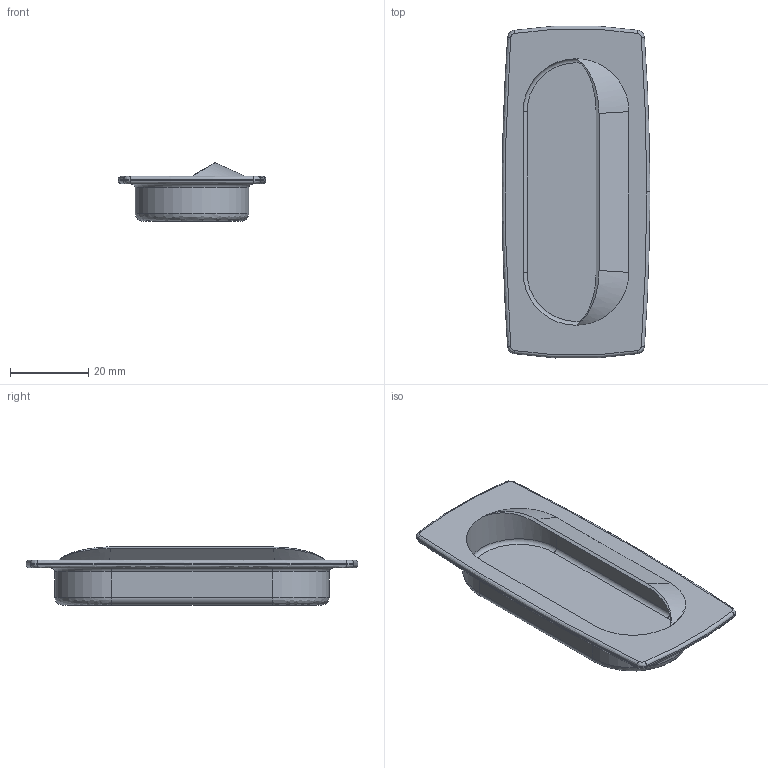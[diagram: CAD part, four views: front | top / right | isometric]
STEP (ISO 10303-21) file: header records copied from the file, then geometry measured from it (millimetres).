
FILE_DESCRIPTION (( 'STEP AP203' ), '1' );
FILE_NAME ('FHD3070.STEP', '2024-02-19T12:34:39', ( '' ), ( '' ), 'SwSTEP 2.0', 'SolidWorks 2022', '' );
FILE_SCHEMA (( 'CONFIG_CONTROL_DESIGN' ));
Length unit declared in the file: millimetre
Products named in the file (1): FHD3070
Bounding box: 37.7 x 84.72 x 14.89 mm (x, y, z)
Surface area: 10712.6 mm2 (no closed solid volume)
Topology: 0 solids, 1 shells, 59 faces, 138 edges, 78 vertices
Faces by surface type: bspline 24, cylinder 19, plane 11, torus 5
Entity records: 2490 total; most frequent: CARTESIAN_POINT 1210, ORIENTED_EDGE 264, DIRECTION 243, EDGE_CURVE 134, AXIS2_PLACEMENT_3D 101, VERTEX_POINT 78, CIRCLE 65, EDGE_LOOP 62
